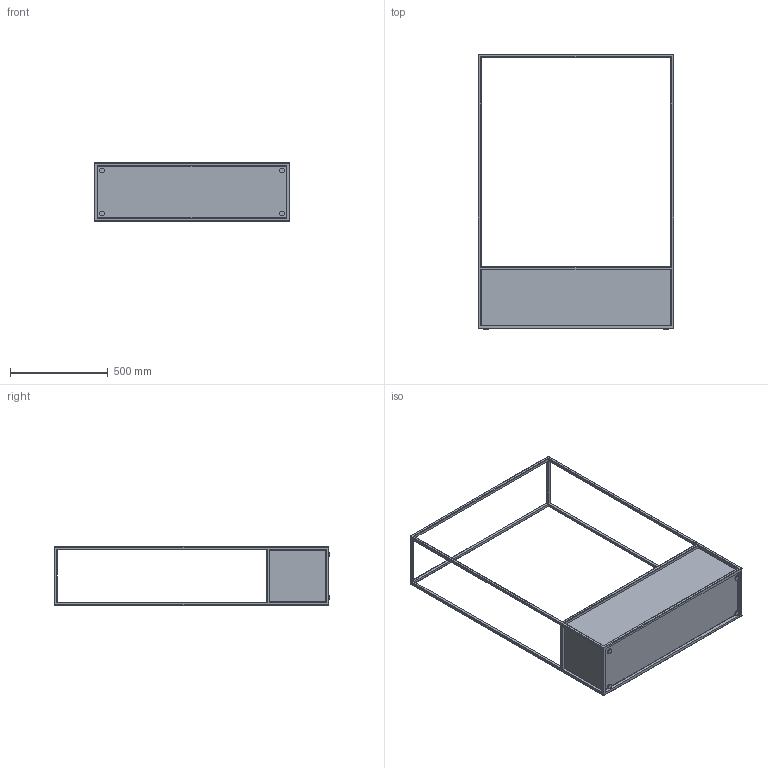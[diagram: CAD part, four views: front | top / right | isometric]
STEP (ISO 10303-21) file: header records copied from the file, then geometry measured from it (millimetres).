
FILE_DESCRIPTION(/* description */ (''),/* implementation_level */ '2;1');
FILE_NAME(/* name */ 'C:\INVENTOR\Workspace\# ARKITEKT FILER\Planter\Planter Carl 1400 1 Box.stp',/* time_stamp */ '2020-06-23T15:19:38+02:00',/* author */ ('Röshults'),/* organization */ (''),/* preprocessor_version */ 'ST-DEVELOPER v17.2',/* originating_system */ 'Autodesk Inventor 2019',/* authorisation */ '');
FILE_SCHEMA (('AUTOMOTIVE_DESIGN { 1 0 10303 214 3 1 1 }'));
Length unit declared in the file: millimetre
Products named in the file (3): Planter Carl 1400 1 Box; Planter Carl 1400 1 Box Frame; 1400 Lower Box
Assembly tree (2 placements, depth 2):
  Planter Carl 1400 1 Box
    Planter Carl 1400 1 Box Frame
    1400 Lower Box
Bounding box: 1000 x 1405 x 300 mm (x, y, z)
Volume: 3945553.8 mm3; surface area: 2821740.5 mm2
Topology: 6 solids, 6 shells, 180 faces, 372 edges, 196 vertices
Faces by surface type: plane 92, cylinder 72, sphere 16
Full cylindrical faces by diameter (mm): 25 x4
Entity records: 4693 total; most frequent: DIRECTION 850, CARTESIAN_POINT 753, ORIENTED_EDGE 744, EDGE_CURVE 372, AXIS2_PLACEMENT_3D 293, LINE 264, VECTOR 264, VERTEX_POINT 196
